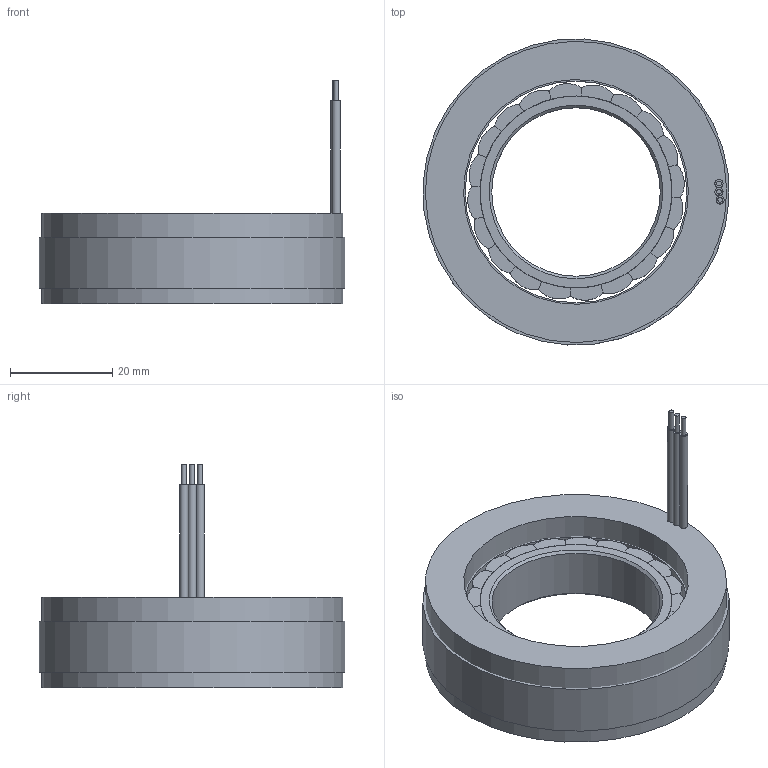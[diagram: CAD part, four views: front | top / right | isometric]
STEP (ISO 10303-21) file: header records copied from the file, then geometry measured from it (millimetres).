
FILE_DESCRIPTION (( 'STEP AP214' ), '1' );
FILE_NAME ('6008萇儂.STEP', '2024-01-17T06:57:42', ( '' ), ( '' ), 'SwSTEP 2.0', 'SolidWorks 2022', '' );
FILE_SCHEMA (( 'AUTOMOTIVE_DESIGN' ));
Length unit declared in the file: millimetre
Products named in the file (1): 6008萇儂
Bounding box: 59.91 x 59.91 x 43.7 mm (x, y, z)
Volume: 38924.8 mm3; surface area: 34641 mm2
Topology: 45 solids, 45 shells, 666 faces, 1711 edges, 1141 vertices
Faces by surface type: plane 370, cylinder 294, cone 2
Full cylindrical faces by diameter (mm): 0.94 x6, 1.6 x3, 33 x1, 37.6 x1, 43.4 x1, 44 x1, 57 x1, 59 x1, 60 x1
Entity records: 28100 total; most frequent: DIRECTION 3614, CARTESIAN_POINT 3495, ORIENTED_EDGE 3380, EDGE_CURVE 1690, AXIS2_PLACEMENT_3D 1257, VERTEX_POINT 1138, VECTOR 1100, LINE 1100
